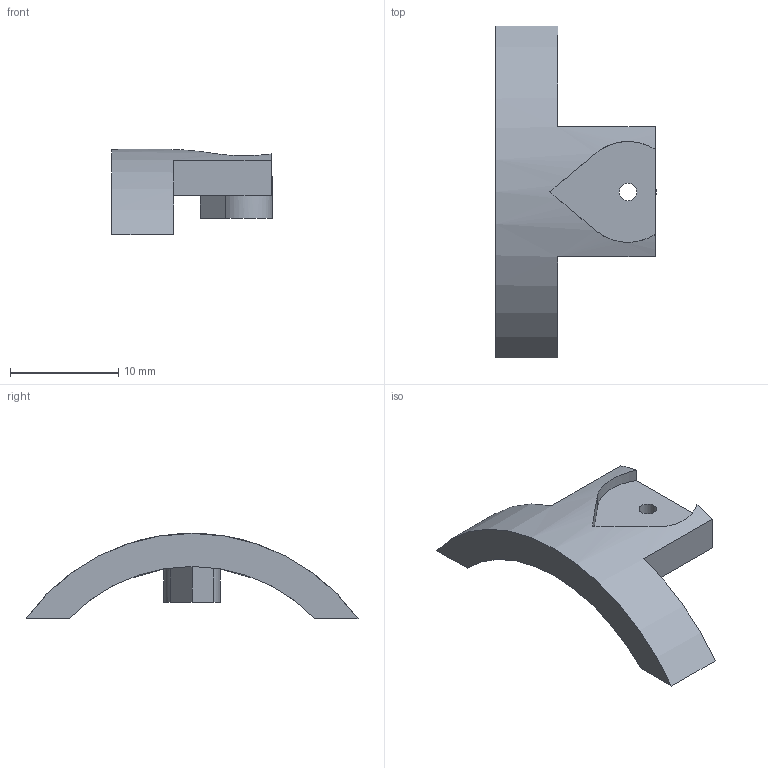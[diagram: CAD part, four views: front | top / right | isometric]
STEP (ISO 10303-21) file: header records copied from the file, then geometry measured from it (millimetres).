
FILE_DESCRIPTION(('SkyG Speed 90B - revision C6B-11 - 2026-10-11','HL1-hatch-lip-front'),'2;1');
FILE_NAME('HL1-hatch-lip-front_C6B-11','2026-10-11T13:31:17',('Author'),( 'Open CASCADE'),'Open CASCADE STEP processor 7.9','Open CASCADE 7.9' ,'Unknown');
FILE_SCHEMA(('AUTOMOTIVE_DESIGN { 1 0 10303 214 1 1 1 1 }'));
Length unit declared in the file: millimetre
Products named in the file (1): HL1-hatch-lip-front C6B-11
Bounding box: 14.8 x 30.62 x 7.85 mm (x, y, z)
Volume: 842.7 mm3; surface area: 953.7 mm2
Topology: 1 solids, 1 shells, 21 faces, 59 edges, 40 vertices
Faces by surface type: plane 15, cylinder 6
Full cylindrical faces by diameter (mm): 1.6 x1
Entity records: 1705 total; most frequent: CARTESIAN_POINT 594, DIRECTION 184, ORIENTED_EDGE 118, PCURVE 118, DEFINITIONAL_REPRESENTATION 118, LINE 78, VECTOR 78, EDGE_CURVE 59
